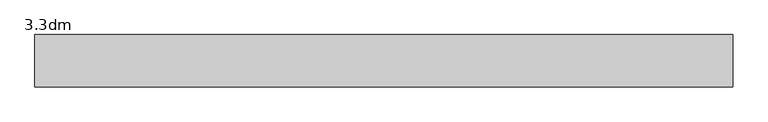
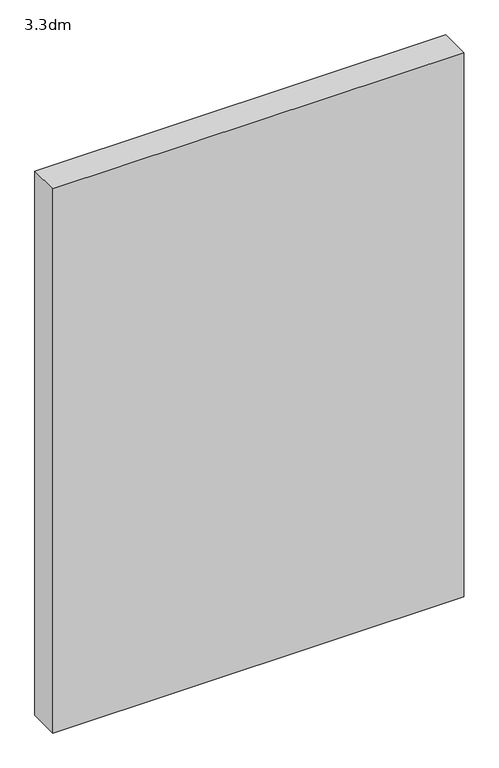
"""IFC4 building model written with IfcOpenShell, lengths in millimetres: proxy geometry, 3.3dm."""

from ifc_helpers import new_model, si_unit, origin, origin_with_axes, place, context, project, spatial, polyline, outline, extrude, source, transform, mapped, element, save


def proxy_3_3dm_4a09337f(model_context):
    return source(origin(), model_context, "Body", "SweptSolid", [
        extrude(outline(polyline([(4508.0, 6.0), (4508.0, 156.0), (6508.0, 156.0), (6508.0, 6.0), (4508.0, 6.0)])), origin_with_axes(), (0.0, 0.0, 1.0), 2800.0),
    ])


if __name__ == "__main__":
    model = new_model("IFC4")
    model_context = context("Model", 3, world=origin())
    ifc_project = project(units=[si_unit("LENGTHUNIT", "METRE", prefix="MILLI")], contexts=[model_context])
    site = spatial("IfcSite", under=ifc_project)
    building = spatial("IfcBuilding", under=site)
    placement = place(None, origin())
    proxy_3_3dm_shape = proxy_3_3dm_4a09337f(model_context)
    element("IfcBuildingElementProxy", 1, Name="3.3dm", ObjectType="3.3dm", at=placement, inside=building, context=model_context, shape_type="MappedRepresentation", body=[
        mapped(proxy_3_3dm_shape, transform((0.0, 0.0, 0.0), x_axis=(1.0, 0.0, 0.0), y_axis=(0.0, 1.0, 0.0), z_axis=(0.0, 0.0, 1.0))),
    ])
    save(model, "model.ifc")
